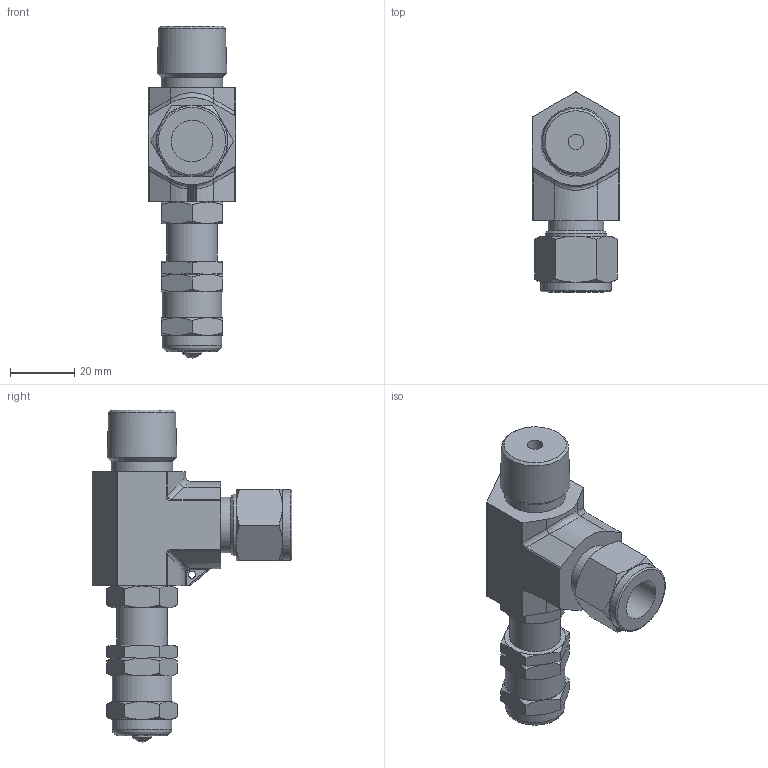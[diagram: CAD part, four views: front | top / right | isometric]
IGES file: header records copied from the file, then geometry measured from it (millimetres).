
Global section: file name: SRV-M8N-S8; native system: Autodesk Inventor 2016; preprocessor: unknown; author: 이승민,,11,0; organization: 20161227.102132; date: 20161229.080831; units: millimetre
Bounding box: 27 x 62.02 x 103 mm (x, y, z)
Volume: 48899.3 mm3; surface area: 17491.3 mm2
Topology: 5 solids, 5 shells, 227 faces, 546 edges, 349 vertices
Faces by surface type: bspline 227
